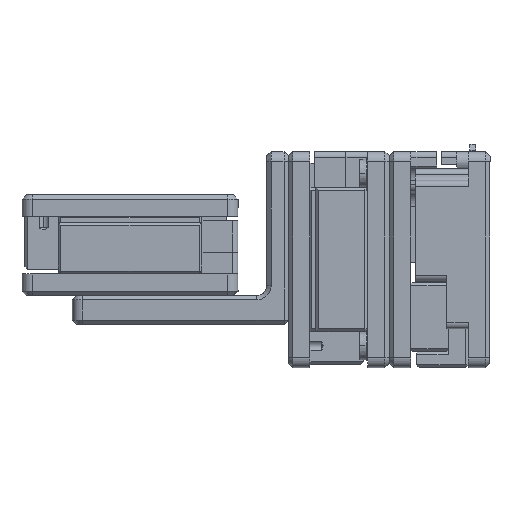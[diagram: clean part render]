
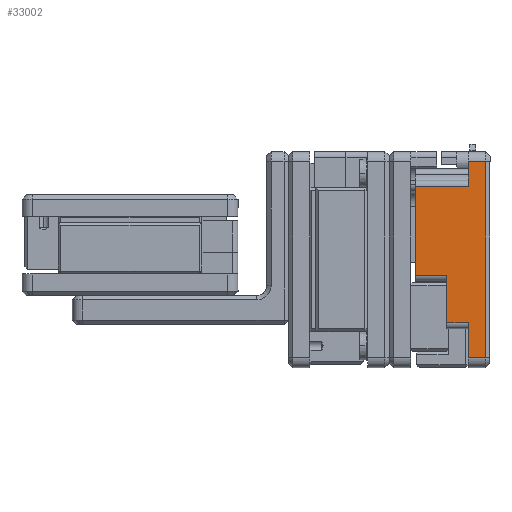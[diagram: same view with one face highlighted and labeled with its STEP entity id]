
A CAD part, left-side view. The second image highlights one B-rep face of the part: STEP entity #33002.
In plain terms, the highlighted planar face has unit normal (-1, 0, 0).
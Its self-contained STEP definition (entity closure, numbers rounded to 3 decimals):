
#599 = VERTEX_POINT ( 'NONE', #727 ) ;
#727 = CARTESIAN_POINT ( 'NONE',  ( -7.5, 3., -4.4 ) ) ;
#1726 = LINE ( 'NONE', #25771, #2331 ) ;
#1846 = EDGE_CURVE ( 'NONE', #27425, #5917, #38905, .T. ) ;
#2331 = VECTOR ( 'NONE', #28832, 1000. ) ;
#4206 = EDGE_CURVE ( 'NONE', #22081, #5917, #42886, .T. ) ;
#5211 = CARTESIAN_POINT ( 'NONE',  ( -7.5, 3., -1.1 ) ) ;
#5660 = VECTOR ( 'NONE', #30425, 1000. ) ;
#5743 = EDGE_CURVE ( 'NONE', #39955, #33308, #19824, .T. ) ;
#5917 = VERTEX_POINT ( 'NONE', #10719 ) ;
#5922 = ORIENTED_EDGE ( 'NONE', *, *, #15163, .F. ) ;
#6879 = CARTESIAN_POINT ( 'NONE',  ( -7.5, 1.5, 7.5 ) ) ;
#7855 = LINE ( 'NONE', #16523, #10160 ) ;
#8062 = ORIENTED_EDGE ( 'NONE', *, *, #47008, .T. ) ;
#8506 = DIRECTION ( 'NONE',  ( 0., 0., -1. ) ) ;
#8525 = DIRECTION ( 'NONE',  ( 0., 1., 0. ) ) ;
#8660 = CARTESIAN_POINT ( 'NONE',  ( -7.5, 1.5, 0. ) ) ;
#8997 = VERTEX_POINT ( 'NONE', #35721 ) ;
#9597 = DIRECTION ( 'NONE',  ( 0., 1., 0. ) ) ;
#10160 = VECTOR ( 'NONE', #46054, 1000. ) ;
#10632 = ORIENTED_EDGE ( 'NONE', *, *, #1846, .F. ) ;
#10719 = CARTESIAN_POINT ( 'NONE',  ( -7.5, 1.5, 5.1 ) ) ;
#12106 = CARTESIAN_POINT ( 'NONE',  ( -7.5, 1.5, 0. ) ) ;
#12135 = EDGE_CURVE ( 'NONE', #8997, #599, #20641, .T. ) ;
#12372 = DIRECTION ( 'NONE',  ( 0., -1., 0. ) ) ;
#12538 = CARTESIAN_POINT ( 'NONE',  ( -7.5, 1.5, 6.8 ) ) ;
#13958 = VECTOR ( 'NONE', #47305, 1000. ) ;
#14535 = VECTOR ( 'NONE', #8525, 1000. ) ;
#14891 = LINE ( 'NONE', #12538, #17150 ) ;
#15163 = EDGE_CURVE ( 'NONE', #33308, #27425, #23409, .T. ) ;
#15174 = EDGE_CURVE ( 'NONE', #22081, #15698, #14891, .T. ) ;
#15698 = VERTEX_POINT ( 'NONE', #34983 ) ;
#15741 = EDGE_LOOP ( 'NONE', ( #10632, #5922, #41088, #41726, #37582, #8062, #23842, #25820, #23912, #30126 ) ) ;
#16103 = CARTESIAN_POINT ( 'NONE',  ( -7.5, 1.5, 6.8 ) ) ;
#16523 = CARTESIAN_POINT ( 'NONE',  ( -7.5, 3., 7.5 ) ) ;
#17150 = VECTOR ( 'NONE', #12372, 1000. ) ;
#18338 = VECTOR ( 'NONE', #44306, 1000. ) ;
#19529 = CARTESIAN_POINT ( 'NONE',  ( -7.5, 5.2, 7.5 ) ) ;
#19824 = LINE ( 'NONE', #42497, #21595 ) ;
#20641 = LINE ( 'NONE', #29943, #18338 ) ;
#21113 = DIRECTION ( 'NONE',  ( 0., 0., -1. ) ) ;
#21554 = VECTOR ( 'NONE', #41157, 1000. ) ;
#21595 = VECTOR ( 'NONE', #9597, 1000. ) ;
#22081 = VERTEX_POINT ( 'NONE', #16103 ) ;
#23409 = LINE ( 'NONE', #19529, #5660 ) ;
#23842 = ORIENTED_EDGE ( 'NONE', *, *, #29840, .F. ) ;
#23912 = ORIENTED_EDGE ( 'NONE', *, *, #15174, .F. ) ;
#24213 = LINE ( 'NONE', #41769, #14535 ) ;
#25256 = DIRECTION ( 'NONE',  ( 1., 0., 0. ) ) ;
#25771 = CARTESIAN_POINT ( 'NONE',  ( -7.5, 0.3, 7.5 ) ) ;
#25820 = ORIENTED_EDGE ( 'NONE', *, *, #32556, .F. ) ;
#26341 = EDGE_CURVE ( 'NONE', #599, #39955, #7855, .T. ) ;
#27425 = VERTEX_POINT ( 'NONE', #46285 ) ;
#28293 = PLANE ( 'NONE',  #41325 ) ;
#28832 = DIRECTION ( 'NONE',  ( 0., 0., -1. ) ) ;
#29840 = EDGE_CURVE ( 'NONE', #39028, #44216, #24213, .T. ) ;
#29943 = CARTESIAN_POINT ( 'NONE',  ( -7.5, 1.5, -4.4 ) ) ;
#30126 = ORIENTED_EDGE ( 'NONE', *, *, #4206, .T. ) ;
#30186 = CARTESIAN_POINT ( 'NONE',  ( -7.5, 5.2, -1.1 ) ) ;
#30425 = DIRECTION ( 'NONE',  ( 0., 0., 1. ) ) ;
#32556 = EDGE_CURVE ( 'NONE', #15698, #39028, #1726, .T. ) ;
#33002 = ADVANCED_FACE ( 'NONE', ( #38324 ), #28293, .F. ) ;
#33308 = VERTEX_POINT ( 'NONE', #30186 ) ;
#34103 = LINE ( 'NONE', #12106, #21554 ) ;
#34983 = CARTESIAN_POINT ( 'NONE',  ( -7.5, 0.3, 6.8 ) ) ;
#35721 = CARTESIAN_POINT ( 'NONE',  ( -7.5, 1.5, -4.4 ) ) ;
#36637 = VECTOR ( 'NONE', #8506, 1000. ) ;
#37582 = ORIENTED_EDGE ( 'NONE', *, *, #12135, .F. ) ;
#38324 = FACE_OUTER_BOUND ( 'NONE', #15741, .T. ) ;
#38905 = LINE ( 'NONE', #44089, #13958 ) ;
#39028 = VERTEX_POINT ( 'NONE', #41842 ) ;
#39955 = VERTEX_POINT ( 'NONE', #5211 ) ;
#41088 = ORIENTED_EDGE ( 'NONE', *, *, #5743, .F. ) ;
#41147 = CARTESIAN_POINT ( 'NONE',  ( -7.5, 1.5, -6.8 ) ) ;
#41157 = DIRECTION ( 'NONE',  ( 0., 0., -1. ) ) ;
#41325 = AXIS2_PLACEMENT_3D ( 'NONE', #6879, #25256, #21113 ) ;
#41726 = ORIENTED_EDGE ( 'NONE', *, *, #26341, .F. ) ;
#41769 = CARTESIAN_POINT ( 'NONE',  ( -7.5, 1.5, -6.8 ) ) ;
#41842 = CARTESIAN_POINT ( 'NONE',  ( -7.5, 0.3, -6.8 ) ) ;
#42497 = CARTESIAN_POINT ( 'NONE',  ( -7.5, 1.5, -1.1 ) ) ;
#42886 = LINE ( 'NONE', #8660, #36637 ) ;
#44089 = CARTESIAN_POINT ( 'NONE',  ( -7.5, 1.5, 5.1 ) ) ;
#44216 = VERTEX_POINT ( 'NONE', #41147 ) ;
#44306 = DIRECTION ( 'NONE',  ( 0., 1., 0. ) ) ;
#46054 = DIRECTION ( 'NONE',  ( 0., 0., 1. ) ) ;
#46285 = CARTESIAN_POINT ( 'NONE',  ( -7.5, 5.2, 5.1 ) ) ;
#47008 = EDGE_CURVE ( 'NONE', #8997, #44216, #34103, .T. ) ;
#47305 = DIRECTION ( 'NONE',  ( 0., -1., 0. ) ) ;
